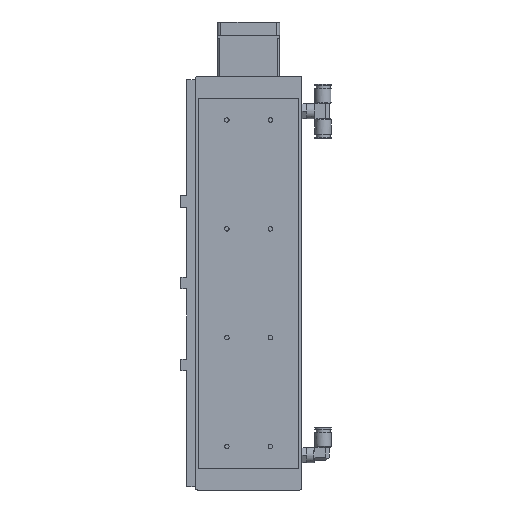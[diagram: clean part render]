
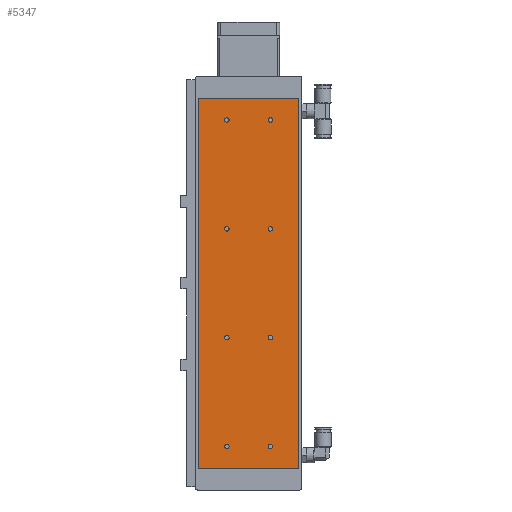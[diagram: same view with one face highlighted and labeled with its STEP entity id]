
A CAD part, front view. The second image highlights one B-rep face of the part: STEP entity #5347.
In plain terms, the highlighted planar face has unit normal (0, -1, 0).
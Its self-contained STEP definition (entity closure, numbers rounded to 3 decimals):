
#4419=CARTESIAN_POINT('',(-17.933,0.0,40.));
#4420=VERTEX_POINT('',#4419);
#4421=CARTESIAN_POINT('',(-20.0,0.0,40.));
#4422=DIRECTION('',(0.0,1.0,0.0));
#4423=DIRECTION('',(1.0,0.0,0.0));
#4424=AXIS2_PLACEMENT_3D('',#4421,#4422,#4423);
#4425=CIRCLE('',#4424,2.067);
#4426=EDGE_CURVE('',#4420,#4420,#4425,.T.);
#4477=CARTESIAN_POINT('',(22.067,0.0,40.));
#4478=VERTEX_POINT('',#4477);
#4479=CARTESIAN_POINT('',(20.,0.0,40.));
#4480=DIRECTION('',(0.0,1.0,0.0));
#4481=DIRECTION('',(1.0,0.0,0.0));
#4482=AXIS2_PLACEMENT_3D('',#4479,#4480,#4481);
#4483=CIRCLE('',#4482,2.067);
#4484=EDGE_CURVE('',#4478,#4478,#4483,.T.);
#4535=CARTESIAN_POINT('',(-17.933,0.0,340.0));
#4536=VERTEX_POINT('',#4535);
#4537=CARTESIAN_POINT('',(-20.,0.0,340.0));
#4538=DIRECTION('',(0.0,1.0,0.0));
#4539=DIRECTION('',(1.0,0.0,0.0));
#4540=AXIS2_PLACEMENT_3D('',#4537,#4538,#4539);
#4541=CIRCLE('',#4540,2.067);
#4542=EDGE_CURVE('',#4536,#4536,#4541,.T.);
#4593=CARTESIAN_POINT('',(22.067,0.0,340.0));
#4594=VERTEX_POINT('',#4593);
#4595=CARTESIAN_POINT('',(20.,0.0,340.0));
#4596=DIRECTION('',(0.0,1.0,0.0));
#4597=DIRECTION('',(1.0,0.0,0.0));
#4598=AXIS2_PLACEMENT_3D('',#4595,#4596,#4597);
#4599=CIRCLE('',#4598,2.067);
#4600=EDGE_CURVE('',#4594,#4594,#4599,.T.);
#4651=CARTESIAN_POINT('',(-17.933,0.0,240.0));
#4652=VERTEX_POINT('',#4651);
#4653=CARTESIAN_POINT('',(-20.,0.0,240.0));
#4654=DIRECTION('',(0.0,1.0,0.0));
#4655=DIRECTION('',(1.0,0.0,0.0));
#4656=AXIS2_PLACEMENT_3D('',#4653,#4654,#4655);
#4657=CIRCLE('',#4656,2.067);
#4658=EDGE_CURVE('',#4652,#4652,#4657,.T.);
#4709=CARTESIAN_POINT('',(-17.933,0.0,140.));
#4710=VERTEX_POINT('',#4709);
#4711=CARTESIAN_POINT('',(-20.,0.0,140.));
#4712=DIRECTION('',(0.0,1.0,0.0));
#4713=DIRECTION('',(1.0,0.0,0.0));
#4714=AXIS2_PLACEMENT_3D('',#4711,#4712,#4713);
#4715=CIRCLE('',#4714,2.067);
#4716=EDGE_CURVE('',#4710,#4710,#4715,.T.);
#4767=CARTESIAN_POINT('',(22.067,0.0,140.));
#4768=VERTEX_POINT('',#4767);
#4769=CARTESIAN_POINT('',(20.,0.0,140.));
#4770=DIRECTION('',(0.0,1.0,0.0));
#4771=DIRECTION('',(1.0,0.0,0.0));
#4772=AXIS2_PLACEMENT_3D('',#4769,#4770,#4771);
#4773=CIRCLE('',#4772,2.067);
#4774=EDGE_CURVE('',#4768,#4768,#4773,.T.);
#4825=CARTESIAN_POINT('',(22.067,0.0,240.0));
#4826=VERTEX_POINT('',#4825);
#4827=CARTESIAN_POINT('',(20.,0.0,240.0));
#4828=DIRECTION('',(0.0,1.0,0.0));
#4829=DIRECTION('',(1.0,0.0,0.0));
#4830=AXIS2_PLACEMENT_3D('',#4827,#4828,#4829);
#4831=CIRCLE('',#4830,2.067);
#4832=EDGE_CURVE('',#4826,#4826,#4831,.T.);
#5234=CARTESIAN_POINT('',(46.,0.0,20.));
#5235=VERTEX_POINT('',#5234);
#5242=CARTESIAN_POINT('',(-46.,0.0,20.));
#5243=VERTEX_POINT('',#5242);
#5244=CARTESIAN_POINT('',(-46.,0.0,20.));
#5245=DIRECTION('',(1.0,0.0,0.0));
#5246=VECTOR('',#5245,92.);
#5247=LINE('',#5244,#5246);
#5248=EDGE_CURVE('',#5243,#5235,#5247,.T.);
#5265=CARTESIAN_POINT('',(-46.,0.0,360.0));
#5266=VERTEX_POINT('',#5265);
#5273=CARTESIAN_POINT('',(46.,0.0,360.0));
#5274=VERTEX_POINT('',#5273);
#5275=CARTESIAN_POINT('',(46.,0.0,360.0));
#5276=DIRECTION('',(-1.0,0.0,0.0));
#5277=VECTOR('',#5276,92.);
#5278=LINE('',#5275,#5277);
#5279=EDGE_CURVE('',#5274,#5266,#5278,.T.);
#5296=CARTESIAN_POINT('',(-46.,0.0,20.));
#5297=DIRECTION('',(0.0,0.0,1.0));
#5298=VECTOR('',#5297,340.0);
#5299=LINE('',#5296,#5298);
#5300=EDGE_CURVE('',#5243,#5266,#5299,.T.);
#5307=CARTESIAN_POINT('',(46.,0.0,0.0));
#5308=DIRECTION('',(0.0,-1.0,0.0));
#5309=DIRECTION('',(0.0,0.0,-1.0));
#5310=AXIS2_PLACEMENT_3D('',#5307,#5308,#5309);
#5311=PLANE('',#5310);
#5312=ORIENTED_EDGE('',*,*,#5248,.T.);
#5313=CARTESIAN_POINT('',(46.,0.0,20.));
#5314=DIRECTION('',(0.0,0.0,1.0));
#5315=VECTOR('',#5314,340.0);
#5316=LINE('',#5313,#5315);
#5317=EDGE_CURVE('',#5235,#5274,#5316,.T.);
#5318=ORIENTED_EDGE('',*,*,#5317,.T.);
#5319=ORIENTED_EDGE('',*,*,#5279,.T.);
#5320=ORIENTED_EDGE('',*,*,#5300,.F.);
#5321=EDGE_LOOP('',(#5312,#5318,#5319,#5320));
#5322=FACE_OUTER_BOUND('',#5321,.T.);
#5323=ORIENTED_EDGE('',*,*,#4426,.T.);
#5324=EDGE_LOOP('',(#5323));
#5325=FACE_BOUND('',#5324,.T.);
#5326=ORIENTED_EDGE('',*,*,#4484,.T.);
#5327=EDGE_LOOP('',(#5326));
#5328=FACE_BOUND('',#5327,.T.);
#5329=ORIENTED_EDGE('',*,*,#4542,.T.);
#5330=EDGE_LOOP('',(#5329));
#5331=FACE_BOUND('',#5330,.T.);
#5332=ORIENTED_EDGE('',*,*,#4600,.T.);
#5333=EDGE_LOOP('',(#5332));
#5334=FACE_BOUND('',#5333,.T.);
#5335=ORIENTED_EDGE('',*,*,#4658,.T.);
#5336=EDGE_LOOP('',(#5335));
#5337=FACE_BOUND('',#5336,.T.);
#5338=ORIENTED_EDGE('',*,*,#4716,.T.);
#5339=EDGE_LOOP('',(#5338));
#5340=FACE_BOUND('',#5339,.T.);
#5341=ORIENTED_EDGE('',*,*,#4774,.T.);
#5342=EDGE_LOOP('',(#5341));
#5343=FACE_BOUND('',#5342,.T.);
#5344=ORIENTED_EDGE('',*,*,#4832,.T.);
#5345=EDGE_LOOP('',(#5344));
#5346=FACE_BOUND('',#5345,.T.);
#5347=ADVANCED_FACE('',(#5322,#5325,#5328,#5331,#5334,#5337,#5340,#5343,#5346),#5311,.T.);
